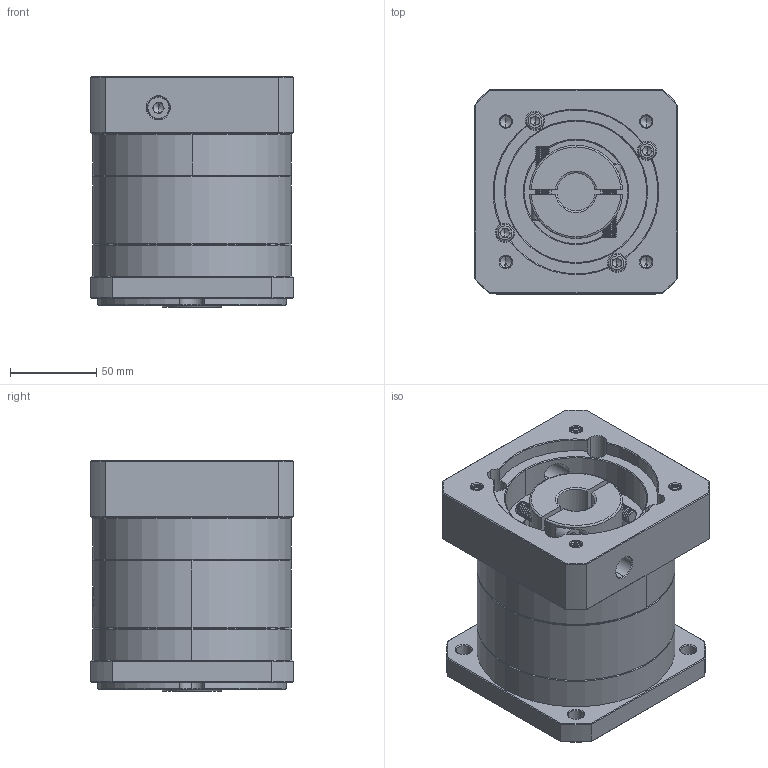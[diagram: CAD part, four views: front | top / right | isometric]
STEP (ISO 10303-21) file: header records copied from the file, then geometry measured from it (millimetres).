
FILE_DESCRIPTION (( 'STEP AP214' ), '1' );
FILE_NAME ('ZF120A-K25-L1-P2-22-95-115-M8.step', '2023-08-27T04:49:43', ( '' ), ( '' ), 'SwSTEP 2.0', 'SolidWorks 2016', '' );
FILE_SCHEMA (( 'AUTOMOTIVE_DESIGN' ));
Length unit declared in the file: millimetre
Products named in the file (1): ZF120A-K25-L1-P2-22-95-115-M8
Bounding box: 118 x 118 x 133.5 mm (x, y, z)
Volume: 1314062.6 mm3; surface area: 157891.5 mm2
Topology: 6 solids, 6 shells, 2178 faces, 5796 edges, 3719 vertices
Faces by surface type: plane 1027, bspline 430, cylinder 396, cone 325
Entity records: 117851 total; most frequent: CARTESIAN_POINT 45008, ORIENTED_EDGE 11536, DIRECTION 8348, EDGE_CURVE 5768, VERTEX_POINT 3719, VECTOR 3046, LINE 3046, AXIS2_PLACEMENT_3D 2651
